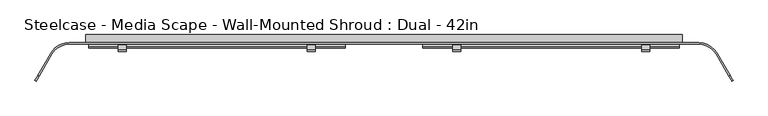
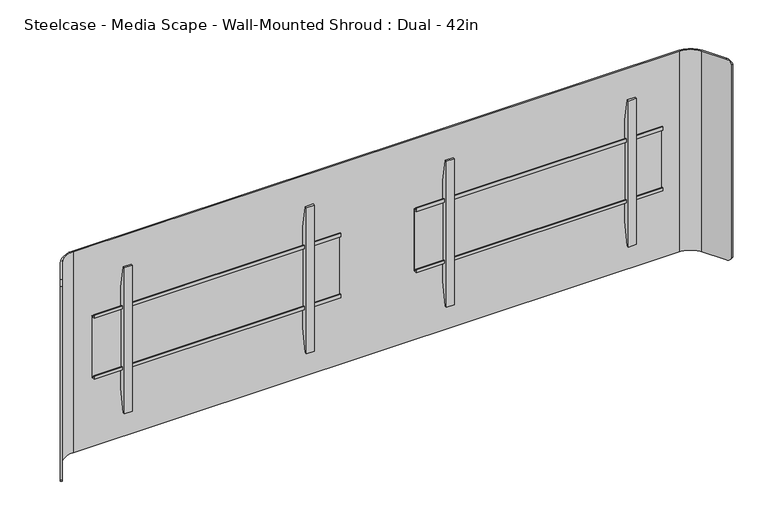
"""IFC4 building model written with IfcOpenShell, lengths in millimetres: furniture geometry, Steelcase - Media Scape - Wall-Mounted Shroud : Dual - 42in."""

from ifc_helpers import new_model, si_unit, frame, origin, place, context, project, spatial, polyline, circle_curve, outline, extrude, source, transform, mapped, element, save
from ifc_brep_helpers import plane_surface, cylinder_surface, revolved_surface, advanced_brep


def steelcase_media_scape_wall_mounted_shroud_dual_42in_44a79b45(model_context):
    return source(origin(), model_context, "Body", "SolidModel", [
        extrude(outline(polyline([(-42.4942785, 1288.4504726), (-42.4942785, 1300.4645649), (-39.8272175, 1300.4645649), (-39.8272175, 1291.117461), (-29.9720009, 1291.117461), (-29.9720009, 1076.7922438), (-42.3164551, 1076.7922438), (-42.3164551, 1087.7142515), (-39.649394, 1087.7142515), (-39.649394, 1079.457052), (-32.6531824, 1079.457052), (-32.6531824, 1288.4504726), (-42.4942785, 1288.4504726)])), frame((123.571, 0.0, 0.0), z_axis=(1.0, 0.0, 0.0), x_axis=(0.0, 1.0, 0.0)), (0.0, 0.0, 1.0), 812.8),
        extrude(outline(polyline([(-32.6531824, 1359.3971148), (-32.6531824, 1007.5825607), (-46.5049349, 929.9546949), (-53.3399828, 929.9546949), (-53.3399828, 1437.9547192), (-46.5050076, 1437.9547192), (-32.6531824, 1359.3971148)])), frame((217.172426, 0.0, 0.0), z_axis=(1.0, 0.0, 0.0), x_axis=(0.0, 1.0, 0.0)), (0.0, 0.0, 1.0), 26.1592872),
        extrude(outline(polyline([(-32.6531824, 1359.3971148), (-32.6531824, 1007.5825607), (-46.5049349, 929.9546949), (-53.3399828, 929.9546949), (-53.3399828, 1437.9547192), (-46.5050076, 1437.9547192), (-32.6531824, 1359.3971148)])), frame((816.6102868, 0.0, 0.0), z_axis=(1.0, 0.0, 0.0), x_axis=(0.0, 1.0, 0.0)), (0.0, 0.0, 1.0), 26.1592872),
        extrude(outline(polyline([(-42.4942785, 1288.4504726), (-42.4942785, 1300.4645649), (-39.8272175, 1300.4645649), (-39.8272175, 1291.117461), (-29.9720009, 1291.117461), (-29.9720009, 1076.7922438), (-42.3164551, 1076.7922438), (-42.3164551, 1087.7142515), (-39.649394, 1087.7142515), (-39.649394, 1079.457052), (-32.6531824, 1079.457052), (-32.6531824, 1288.4504726), (-42.4942785, 1288.4504726)])), frame((-936.371, 0.0, 0.0), z_axis=(1.0, 0.0, 0.0), x_axis=(0.0, 1.0, 0.0)), (0.0, 0.0, 1.0), 812.8),
        extrude(outline(polyline([(-32.6531824, 1359.3971148), (-32.6531824, 1007.5825607), (-46.5049349, 929.9546949), (-53.3399828, 929.9546949), (-53.3399828, 1437.9547192), (-46.5050076, 1437.9547192), (-32.6531824, 1359.3971148)])), frame((-243.3317132, 0.0, 0.0), z_axis=(1.0, 0.0, 0.0), x_axis=(0.0, 1.0, 0.0)), (0.0, 0.0, 1.0), 26.1592872),
        extrude(outline(polyline([(-32.6531824, 1359.3971148), (-32.6531824, 1007.5825607), (-46.5049349, 929.9546949), (-53.3399828, 929.9546949), (-53.3399828, 1437.9547192), (-46.5050076, 1437.9547192), (-32.6531824, 1359.3971148)])), frame((-842.769574, 0.0, 0.0), z_axis=(1.0, 0.0, 0.0), x_axis=(0.0, 1.0, 0.0)), (0.0, 0.0, 1.0), 26.1592872),
        advanced_brep(
        [(-1052.9586135, -61.722, 1534.414), (-997.966002, -29.9720009, 1534.414), (997.966, -29.9720009, 1534.414), (1052.9586135, -61.722, 1534.414), (1093.079586, -131.2135628, 1534.414), (1097.0390541, -128.9275628, 1534.414), (1056.9180817, -59.436, 1534.414), (997.966002, -25.4, 1534.414), (-997.966, -25.4, 1534.414), (-1056.9180817, -59.436, 1534.414), (-1097.0421659, -128.9329524, 1534.414), (-1093.0826977, -131.2189524, 1534.414), (-1056.9180817, -59.436, 835.914), (-997.966002, -25.4, 835.914), (997.966, -25.4, 835.914), (1056.9180817, -59.436, 835.914), (1097.0906629, -129.0169518, 835.914), (1093.1311948, -131.3029518, 835.914), (1052.9586135, -61.722, 835.914), (997.966002, -29.9720009, 835.914), (-997.966, -29.9720009, 835.914), (-1052.9586135, -61.722, 835.914), (-1093.1454014, -131.3275584, 835.914), (-1097.1048695, -129.0415584, 835.914), (-1106.6090632, -145.5033047, 849.5242766), (-1106.6090632, -145.5033047, 1520.4227735), (-1102.6495951, -147.7893047, 1520.4227735), (-1102.6495951, -147.7893047, 849.5242766), (1102.6270866, -147.7503189, 849.4756893), (1102.6270866, -147.7503189, 1520.5433849), (1106.5865547, -145.4643189, 1520.5433849), (1106.5865547, -145.4643189, 849.4756893)],
        [
            (0, 1, circle_curve(frame((-997.966002, -93.4719991, 1534.414), z_axis=(0.0, 0.0, -1.0), x_axis=(0.0, 1.0, 0.0)), 63.4999981)),
            (1, 2),
            (2, 3, circle_curve(frame((997.966002, -93.4719991, 1534.414), z_axis=(0.0, 0.0, -1.0), x_axis=(0.0, 1.0, 0.0)), 63.4999981)),
            (3, 4),
            (4, 5),
            (5, 6),
            (6, 7, circle_curve(frame((997.9660004, -93.472, 1534.414), z_axis=(0.0, 0.0, 1.0), x_axis=(0.0, 1.0, 0.0)), 68.072)),
            (7, 8),
            (8, 9, circle_curve(frame((-997.9660004, -93.472, 1534.414), z_axis=(0.0, 0.0, 1.0), x_axis=(0.0, 1.0, 0.0)), 68.072)),
            (9, 10),
            (10, 11),
            (11, 0),
            (12, 13, circle_curve(frame((-997.9660004, -93.472, 835.914), z_axis=(0.0, 0.0, -1.0), x_axis=(0.0, 1.0, 0.0)), 68.072)),
            (13, 14),
            (14, 15, circle_curve(frame((997.9660004, -93.472, 835.914), z_axis=(0.0, 0.0, -1.0), x_axis=(0.0, 1.0, 0.0)), 68.072)),
            (15, 16),
            (16, 17),
            (17, 18),
            (18, 19, circle_curve(frame((997.966002, -93.4719991, 835.914), z_axis=(0.0, 0.0, 1.0), x_axis=(0.0, 1.0, 0.0)), 63.4999981)),
            (19, 20),
            (20, 21, circle_curve(frame((-997.966002, -93.4719991, 835.914), z_axis=(0.0, 0.0, 1.0), x_axis=(0.0, 1.0, 0.0)), 63.4999981)),
            (21, 22),
            (22, 23),
            (23, 12),
            (0, 21),
            (20, 1),
            (8, 13),
            (12, 9),
            (23, 24, circle_curve(frame((-1097.1048695, -129.0415584, 855.9928872), z_axis=(-0.8660254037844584, 0.49999999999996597, 0.0), x_axis=(-0.49999999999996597, -0.8660254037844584, 0.0)), 20.0788872)),
            (24, 25),
            (25, 10, circle_curve(frame((-1097.0421659, -128.9329524, 1514.3351128), z_axis=(-0.8660254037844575, 0.4999999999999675, 0.0), x_axis=(-0.4999999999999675, -0.8660254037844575, 0.0)), 20.0788872)),
            (26, 25),
            (24, 27),
            (27, 26),
            (11, 26, circle_curve(frame((-1093.0826977, -131.2189524, 1514.3351128), z_axis=(0.8660254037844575, -0.4999999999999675, 0.0), x_axis=(-0.4999999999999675, -0.8660254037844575, 0.0)), 20.0788872)),
            (27, 22, circle_curve(frame((-1093.1454014, -131.3275584, 855.9928872), z_axis=(0.8660254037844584, -0.49999999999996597, 0.0), x_axis=(-0.49999999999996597, -0.8660254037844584, 0.0)), 20.0788872)),
            (7, 14),
            (19, 2),
            (3, 18),
            (17, 28, circle_curve(frame((1093.1311948, -131.3029518, 855.9928872), z_axis=(-0.8660254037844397, -0.49999999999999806, 0.0), x_axis=(0.49999999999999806, -0.8660254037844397, 0.0)), 20.0788872)),
            (28, 29),
            (29, 4, circle_curve(frame((1093.079586, -131.2135628, 1514.3351128), z_axis=(-0.8660254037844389, -0.49999999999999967, 0.0), x_axis=(0.49999999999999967, -0.8660254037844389, 0.0)), 20.0788872)),
            (30, 29),
            (28, 31),
            (31, 30),
            (15, 6),
            (5, 30, circle_curve(frame((1097.0390541, -128.9275628, 1514.3351128), z_axis=(0.8660254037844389, 0.49999999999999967, 0.0), x_axis=(0.49999999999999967, -0.8660254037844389, 0.0)), 20.0788872)),
            (31, 16, circle_curve(frame((1097.0906629, -129.0169518, 855.9928872), z_axis=(0.8660254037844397, 0.49999999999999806, 0.0), x_axis=(0.49999999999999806, -0.8660254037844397, 0.0)), 20.0788872)),
        ],
        [
            plane_surface(frame((-997.966002, -29.9720009, 1534.414), z_axis=(0.0, 0.0, 1.0), x_axis=(1.0, 0.0, 0.0))),
            plane_surface(frame((-997.966002, -29.9720009, 835.914), z_axis=(0.0, 0.0, -1.0), x_axis=(-1.0, 0.0, 0.0))),
            revolved_surface(polyline([(-997.966002, -29.972001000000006, 835.914), (-997.966002, -29.972001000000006, 1534.414)]), (-997.966002, -93.4719991, 835.914), (0.0, 0.0, -1.0)),
            cylinder_surface(frame((-997.9660004, -93.472, 835.914), z_axis=(0.0, 0.0, 1.0), x_axis=(0.0, 1.0, 0.0)), 68.072),
            plane_surface(frame((-1056.9180817, -59.436, 1534.414), z_axis=(-0.8660254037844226, 0.5000000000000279, 0.0), x_axis=(0.0, 0.0, -1.0))),
            plane_surface(frame((-1106.6090632, -145.5033047, 1534.414), z_axis=(-0.5000000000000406, -0.8660254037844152, 0.0), x_axis=(0.0, 0.0, -1.0))),
            plane_surface(frame((-1102.6495951, -147.7893047, 1534.414), z_axis=(0.8660254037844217, -0.5000000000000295, 0.0), x_axis=(0.0, 0.0, -1.0))),
            plane_surface(frame((997.966, -25.4, 1534.414), z_axis=(0.0, 1.0, 0.0), x_axis=(0.0, 0.0, -1.0))),
            plane_surface(frame((-997.966, -29.9720009, 1534.414), z_axis=(0.0, -1.0, 0.0), x_axis=(0.0, 0.0, -1.0))),
            plane_surface(frame((1052.9586135, -61.722, 1534.414), z_axis=(-0.8660254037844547, -0.4999999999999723, 0.0), x_axis=(0.0, 0.0, -1.0))),
            plane_surface(frame((1102.6270866, -147.7503189, 1534.414), z_axis=(0.4999999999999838, -0.866025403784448, 0.0), x_axis=(0.0, 0.0, -1.0))),
            plane_surface(frame((1106.5865547, -145.4643189, 1534.414), z_axis=(0.8660254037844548, 0.49999999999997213, 0.0), x_axis=(0.0, 0.0, -1.0))),
            cylinder_surface(frame((997.9660004, -93.472, 835.914), z_axis=(0.0, 0.0, 1.0), x_axis=(0.0, 1.0, 0.0)), 68.072),
            revolved_surface(polyline([(997.966002, -29.972001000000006, 835.914), (997.966002, -29.972001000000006, 1534.414)]), (997.966002, -93.4719991, 835.914), (0.0, 0.0, -1.0)),
            cylinder_surface(frame((-1093.0826977, -131.2189524, 1514.3351128), z_axis=(0.8660254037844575, -0.4999999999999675, 0.0), x_axis=(-0.4999999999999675, -0.8660254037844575, 0.0)), 20.0788872),
            cylinder_surface(frame((-1093.1454014, -131.3275584, 855.9928872), z_axis=(0.8660254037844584, -0.49999999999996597, 0.0), x_axis=(-0.49999999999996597, -0.8660254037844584, 0.0)), 20.0788872),
            cylinder_surface(frame((1108.1864297, -122.4916225, 1514.3351128), z_axis=(0.8660254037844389, 0.49999999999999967, 0.0), x_axis=(0.49999999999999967, -0.8660254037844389, 0.0)), 20.0788872),
            cylinder_surface(frame((1105.3789695, -124.2316958, 855.9928872), z_axis=(0.8660254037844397, 0.49999999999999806, 0.0), x_axis=(0.49999999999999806, -0.8660254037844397, 0.0)), 20.0788872),
        ],
        [
            (0, [[1, 2, 3, 4, 5, 6, 7, 8, 9, 10, 11, 12]]),
            (1, [[13, 14, 15, 16, 17, 18, 19, 20, 21, 22, 23, 24]]),
            (2, [[-1, 25, -21, 26]]),
            (3, [[-9, 27, -13, 28]]),
            (4, [[-28, -24, 29, 30, 31, -10]]),
            (5, [[32, -30, 33, 34]]),
            (6, [[-25, -12, 35, -34, 36, -22]]),
            (7, [[-8, 37, -14, -27]]),
            (8, [[-2, -26, -20, 38]]),
            (9, [[39, -18, 40, 41, 42, -4]]),
            (10, [[43, -41, 44, 45]]),
            (11, [[46, -6, 47, -45, 48, -16]]),
            (12, [[-7, -46, -15, -37]]),
            (13, [[-3, -38, -19, -39]]),
            (14, [[-11, -31, -32, -35]]),
            (15, [[-23, -36, -33, -29]]),
            (16, [[-5, -42, -43, -47]]),
            (17, [[-17, -48, -44, -40]]),
        ],
    ),
        extrude(outline(polyline([(912.1648167, 882.6499879), (912.1648167, 946.15), (1458.214, 946.15), (1458.214, -946.15), (912.1648167, -946.15), (912.1648167, -883.6433465), (1394.7139516, -883.6433465), (1394.7139516, 882.6499879), (912.1648167, 882.6499879)])), frame((0.0, -25.4, 0.0), z_axis=(0.0, 1.0, 0.0), x_axis=(0.0, 0.0, 1.0)), (0.0, 0.0, 1.0), 25.4),
    ])


if __name__ == "__main__":
    model = new_model("IFC4")
    model_context = context("Model", 3, world=origin())
    ifc_project = project(units=[si_unit("LENGTHUNIT", "METRE", prefix="MILLI")], contexts=[model_context])
    site = spatial("IfcSite", under=ifc_project)
    building = spatial("IfcBuilding", under=site)
    placement = place(None, origin())
    steelcase_media_scape_wall_mounted_shroud_dual_42in_shape = steelcase_media_scape_wall_mounted_shroud_dual_42in_44a79b45(model_context)
    element("IfcFurniture", 1, ObjectType="Steelcase - Media Scape - Wall-Mounted Shroud : Dual - 42in", at=placement, inside=building, context=model_context, shape_type="MappedRepresentation", body=[
        mapped(steelcase_media_scape_wall_mounted_shroud_dual_42in_shape, transform((0.0, 0.0, 0.0), x_axis=(1.0, 0.0, 0.0), y_axis=(0.0, 1.0, 0.0), z_axis=(0.0, 0.0, 1.0))),
    ])
    save(model, "model.ifc")
